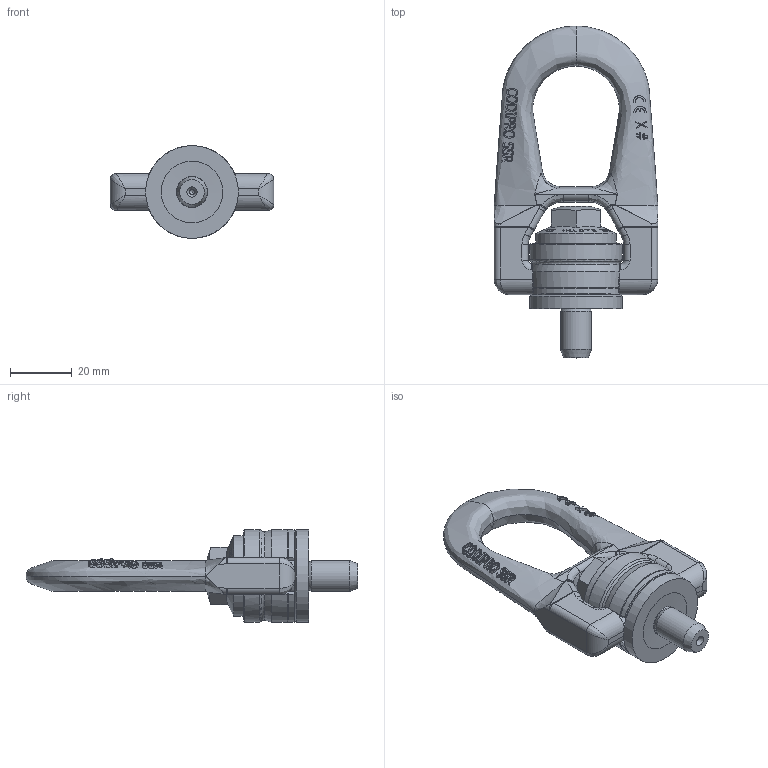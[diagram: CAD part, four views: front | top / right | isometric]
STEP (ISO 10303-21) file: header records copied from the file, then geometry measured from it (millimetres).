
FILE_DESCRIPTION(/* description */ (''),/* implementation_level */ '2;1');
FILE_NAME(/* name */ 'W:\CODIPRO\DOCUMENTS\Plans A NE PAS DIFFUSER !!!\Fichiers STEP\Gamme 2018\Produits NON GRADUP\SS DSR\SS DSR M10.stp',/* time_stamp */ '2017-09-26T13:05:03+02:00',/* author */ ('rklenes'),/* organization */ (''),/* preprocessor_version */ 'ST-DEVELOPER v16.5',/* originating_system */ 'Autodesk Inventor 2017',/* authorisation */ '');
FILE_SCHEMA (('AUTOMOTIVE_DESIGN { 1 0 10303 214 3 1 1 }'));
Products named in the file (5): SS DSR M10; SSM_AF1B-1; SSB_B1B; DRE_D1M10A; DRA_M10X39
Assembly tree (4 placements, depth 2):
  SS DSR M10
    SSM_AF1B-1
    SSB_B1B
    DRE_D1M10A
    DRA_M10X39
Bounding box: 53 x 107.5 x 30 mm (x, y, z)
Volume: 39234.7 mm3; surface area: 17883.4 mm2
Topology: 4 solids, 4 shells, 701 faces, 1842 edges, 1181 vertices
Faces by surface type: plane 304, bspline 252, cylinder 82, cone 43, torus 19, sphere 1
Full cylindrical faces by diameter (mm): 1.6 x1, 10 x5, 10.2 x1, 14.7 x2, 15 x2, 22 x1, 26 x1, 30 x2
Entity records: 40118 total; most frequent: CARTESIAN_POINT 24954, ORIENTED_EDGE 3580, DIRECTION 2344, EDGE_CURVE 1790, VERTEX_POINT 1172, AXIS2_PLACEMENT_3D 841, EDGE_LOOP 782, FACE_OUTER_BOUND 701
